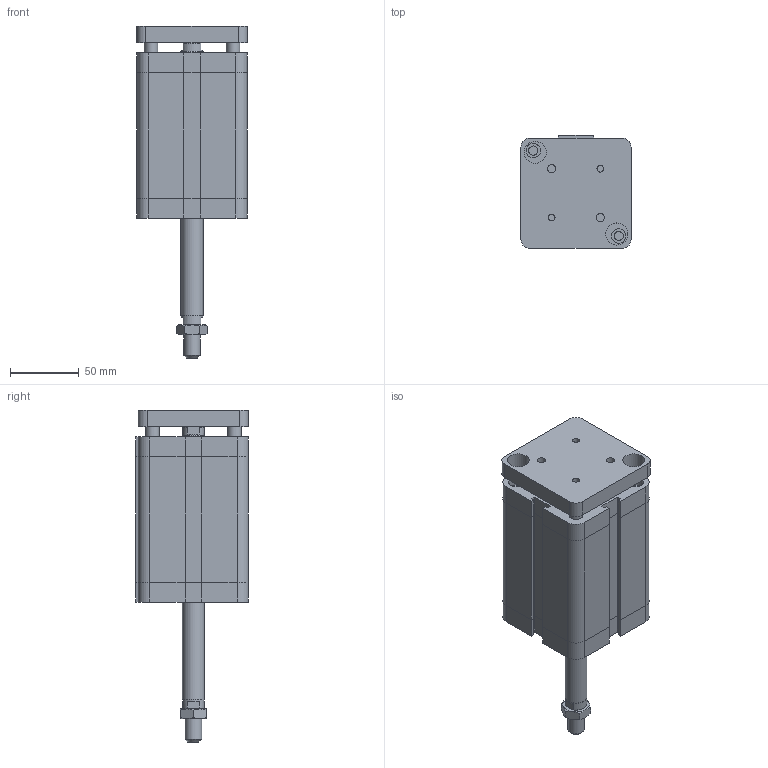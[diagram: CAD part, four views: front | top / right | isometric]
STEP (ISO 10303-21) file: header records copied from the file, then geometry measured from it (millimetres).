
FILE_DESCRIPTION((''),'2;1');
FILE_NAME('I:\Area Tecnica\Disegni\VARIE-3D\Componenti\EUROPE\15##_###_####_09_#\1581_63_0070_09_1.iam.stp','2009-04-20T15:48:05',(''),(''),'Autodesk Inventor 2009','Autodesk Inventor 2009','');
FILE_SCHEMA(('AUTOMOTIVE_DESIGN { 1 0 10303 214 1 1 1 1 }'));
Length unit declared in the file: millimetre
Products named in the file (4): 1581_63_0070_09_1; 1581_63_0070_08_1_C; 1561_63_0070_09_1_SA; DBFM12
Assembly tree (3 placements, depth 2):
  1581_63_0070_09_1
    1581_63_0070_08_1_C
    1561_63_0070_09_1_SA
    DBFM12
Bounding box: 80 x 82 x 241 mm (x, y, z)
Volume: 835656.5 mm3; surface area: 101996.3 mm2
Topology: 3 solids, 3 shells, 209 faces, 470 edges, 287 vertices
Faces by surface type: plane 120, bspline 45, cylinder 23, cone 21
Full cylindrical faces by diameter (mm): 10 x2, 10.8 x1, 12 x1, 15.6 x2, 16 x1
Entity records: 5963 total; most frequent: CARTESIAN_POINT 1453, DIRECTION 838, ORIENTED_EDGE 834, EDGE_CURVE 417, AXIS2_PLACEMENT_3D 282, EDGE_LOOP 282, VECTOR 274, LINE 274
